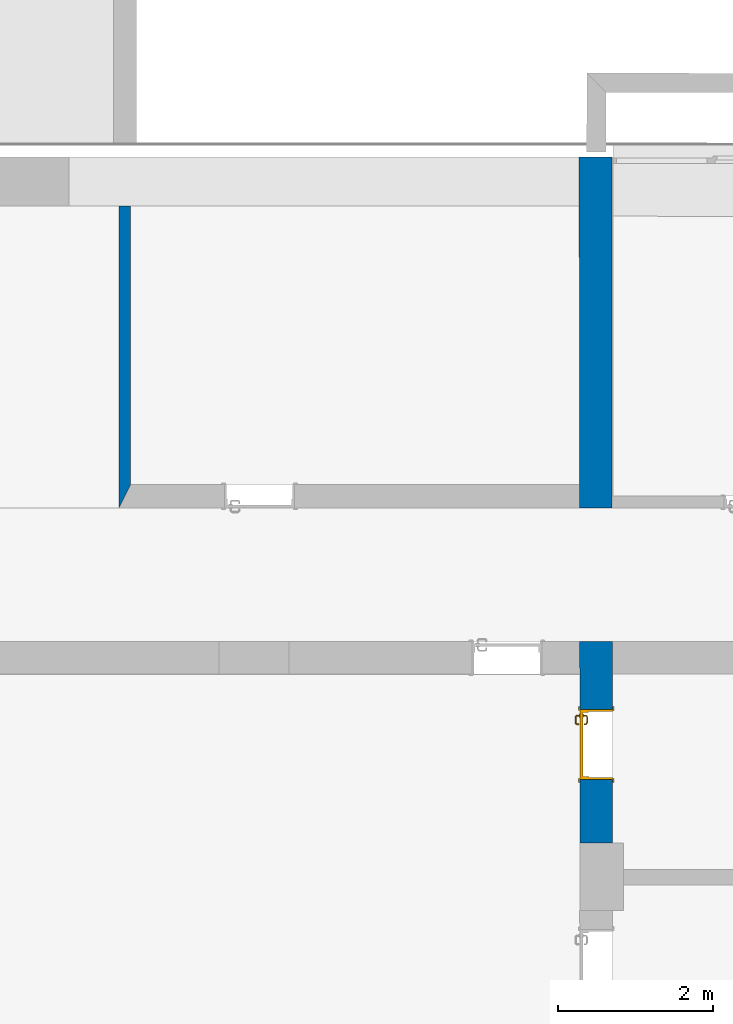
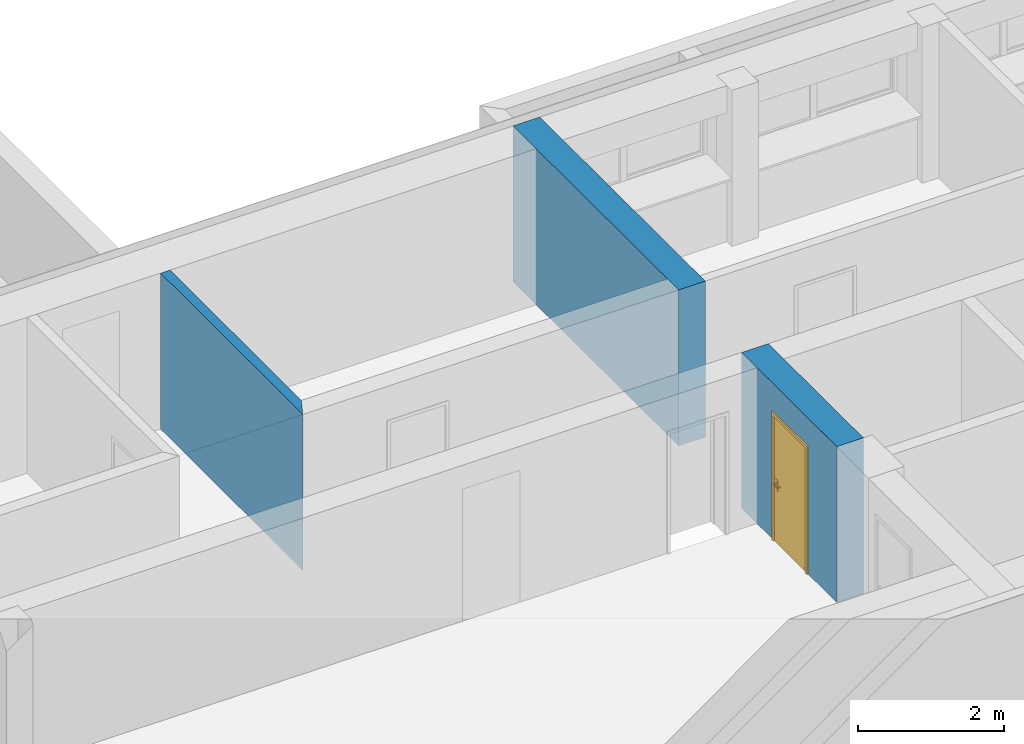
# One storey, part 17 of 127: 2 walls, 1 door, 2 openings.
"""IFC2X3 building model written with IfcOpenShell, lengths in millimetres."""

from ifc_helpers import new_model, entity, si_unit, converted_unit, derived_unit, money_unit, direction, frame, origin_with_axes, origin_2d_with_axis, place, context, subcontext, project, spatial, polyline, rectangle, outline, extrude, open_shell, faceted_brep, surface_model, source, transform, mapped, material, layer, layer_set, layer_usage, type_object, element, fill, save


model = new_model("IFC2X3")

# Units and contexts
model_context = context("Model", 3, precision=1e-05, world=origin_with_axes(), true_north=direction((0.0, 1.0)))
body_context = subcontext(model_context, "Body", "Model", "MODEL_VIEW")
ifc_project = project(units=[si_unit("LENGTHUNIT", "METRE", prefix="MILLI"), si_unit("AREAUNIT", "SQUARE_METRE"), si_unit("VOLUMEUNIT", "CUBIC_METRE"), converted_unit("PLANEANGLEUNIT", "DEGREE", entity("IfcPlaneAngleMeasure", 0.0174532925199), si_unit("PLANEANGLEUNIT", "RADIAN"), dimensions=[0, 0, 0, 0, 0, 0, 0]), si_unit("SOLIDANGLEUNIT", "STERADIAN"), money_unit("EUR"), converted_unit("TIMEUNIT", "Year", entity("IfcTimeMeasure", 31556926.0), si_unit("TIMEUNIT", "SECOND"), dimensions=[0, 0, 1, 0, 0, 0, 0]), si_unit("MASSUNIT", "GRAM", prefix="KILO"), si_unit("THERMODYNAMICTEMPERATUREUNIT", "DEGREE_CELSIUS"), si_unit("LUMINOUSINTENSITYUNIT", "LUMEN"), si_unit("ENERGYUNIT", "JOULE", prefix="MEGA"), derived_unit("THERMALCONDUCTANCEUNIT", [(si_unit("POWERUNIT", "WATT"), 1), (si_unit("LENGTHUNIT", "METRE"), -1), (si_unit("THERMODYNAMICTEMPERATUREUNIT", "KELVIN"), -1)]), derived_unit("SPECIFICHEATCAPACITYUNIT", [(si_unit("ENERGYUNIT", "JOULE"), 1), (si_unit("MASSUNIT", "GRAM", prefix="KILO"), -1), (si_unit("THERMODYNAMICTEMPERATUREUNIT", "KELVIN"), -1)]), derived_unit("MASSDENSITYUNIT", [(si_unit("MASSUNIT", "GRAM", prefix="KILO"), 1), (si_unit("VOLUMEUNIT", "CUBIC_METRE"), -1)])], contexts=[model_context])

# Site, building, storey
site_placement = place(None, origin_with_axes())
site = spatial("IfcSite", under=ifc_project, at=site_placement, Name="Site", CompositionType="ELEMENT")
building_placement = place(site_placement, origin_with_axes())
building = spatial("IfcBuilding", under=site, at=building_placement, Name="Building", CompositionType="ELEMENT")
storey_placement = place(building_placement, origin_with_axes())
storey = spatial("IfcBuildingStorey", under=building, at=storey_placement, Name="1 KORRUS", CompositionType="ELEMENT", Elevation=0.0)

# Wall
ifc_material = material(Name="Kivi -Ol.Olev Konstruktsioon")
ifc_layer_1 = layer(ifc_material, 150.0, ventilated="UNKNOWN")
ifc_layer_set_1 = layer_set([ifc_layer_1], Name="ol.olev ss 150")
ifc_layer_usage_1 = layer_usage(ifc_layer_set_1, "AXIS2", "POSITIVE", 0.0)
wall_type = type_object("IfcWallType", Name="SW - 036", PredefinedType="NOTDEFINED")
wall_1_placement = place(storey_placement, frame((81804.9330895, 47236.278488, 0.0), z_axis=(0.0, 0.0, 1.0), x_axis=(0.0, -1.0, 0.0)))
element("IfcWallStandardCase", 1, at=wall_1_placement, inside=storey, type_object=wall_type, material=ifc_layer_usage_1, Name="ol.olev ss 150", context=body_context, shape_type="SweptSolid", body=[
    extrude(outline(polyline([(630.000019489, 0.0), (4515.05204396, 0.0), (4215.05204396, 150.0), (630.03733236, 150.0), (630.000019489, 0.0)])), origin_with_axes(), (0.0, 0.0, 1.0), 2600.0),
])

# Wall, openings, door
ifc_layer_2 = layer(ifc_material, 420.0, ventilated="UNKNOWN")
ifc_layer_set_2 = layer_set([ifc_layer_2], Name="ol.olev ss 420")
ifc_layer_usage_2 = layer_usage(ifc_layer_set_2, "AXIS2", "POSITIVE", 0.0)
wall_2_placement = place(storey_placement, frame((87726.6748215, 47234.739273, 0.0), z_axis=(0.0, 0.0, 1.0), x_axis=(0.00121768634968, -0.99999925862, 0.0)))
wall_2 = element("IfcWallStandardCase", 2, at=wall_2_placement, inside=storey, type_object=wall_type, material=ifc_layer_usage_2, Name="ol.olev ss 420", context=body_context, shape_type="SweptSolid", body=[
    extrude(outline(polyline([(0.0, 0.0), (8824.48489359, 1.13686837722e-10), (8824.74060779, 420.0), (9.09494701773e-10, 420.0), (0.0, 0.0)])), origin_with_axes(), (0.0, 0.0, 1.0), 2600.0),
])
opening_1_placement = place(wall_2_placement, frame((7559.08498038, 0.0, 0.0), z_axis=(0.0, 0.0, 1.0), x_axis=(1.0, 0.0, 0.0)))
opening_1 = element("IfcOpeningElement", 3, at=opening_1_placement, cuts=wall_2, Name="Siseuks * Door 22", context=body_context, shape_type="SweptSolid", body=[
    extrude(rectangle(XDim=900.000000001, YDim=2100.0, at=origin_2d_with_axis()), frame((0.0, 420.0, 1050.0), z_axis=(0.0, 1.0, 0.0), x_axis=(1.0, 0.0, 0.0)), (0.0, 0.0, -1.0), 1260.0),
    extrude(rectangle(XDim=974.0, YDim=2137.0, at=origin_2d_with_axis()), frame((0.0, 420.0, 1068.5), z_axis=(0.0, 1.0, 0.0), x_axis=(1.0, 0.0, 0.0)), (0.0, 0.0, 1.0), 420.0),
    extrude(rectangle(XDim=974.000000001, YDim=2137.0, at=origin_2d_with_axis()), frame((0.0, 0.0, 1068.5), z_axis=(0.0, -1.0, 0.0), x_axis=(1.0, 0.0, 0.0)), (0.0, 0.0, 1.0), 420.0),
])
opening_2_placement = place(wall_2_placement, frame((5372.87402731, 0.0, 0.0), z_axis=(0.0, 0.0, 1.0), x_axis=(1.0, 0.0, 0.0)))
element("IfcOpeningElement", 4, at=opening_2_placement, cuts=wall_2, Name="Background;  Objekti nimi: Simple Door Opening", context=body_context, shape_type="SweptSolid", body=[
    extrude(rectangle(XDim=1718.64025636, YDim=2600.0, at=origin_2d_with_axis()), frame((0.0, 0.0, 1300.0), z_axis=(0.0, 1.0, 0.0), x_axis=(1.0, 0.0, 0.0)), (0.0, 0.0, -1.0), 420.0),
    extrude(rectangle(XDim=1718.64025636, YDim=2600.0, at=origin_2d_with_axis()), frame((0.0, 0.0, 1300.0), z_axis=(0.0, -1.0, 0.0), x_axis=(1.0, 0.0, 0.0)), (0.0, 0.0, -1.0), 420.0),
])
door_style = type_object("IfcDoorStyle", Name="SU-B131A   900×2\xa0100", ConstructionType="NOTDEFINED", OperationType="SINGLE_SWING_LEFT", ParameterTakesPrecedence=False, Sizeable=False)
shared_shape = source(origin_with_axes(), body_context, "Body", "SurfaceModel", [
    faceted_brep([(450.0, -115.0, 0.0), (450.0, -420.0, 0.0), (425.0, -420.0, 0.0), (425.0, -115.0, 0.0), (450.0, -115.0, 2100.0), (450.0, -420.0, 2100.0), (425.0, -420.0, 2075.0), (425.0, -115.0, 2075.0)], [[[0, 1, 2, 3]], [[4, 5, 1, 0]], [[1, 5, 6, 2]], [[3, 2, 6, 7]], [[0, 3, 7, 4]], [[7, 6, 5, 4]]]),
    faceted_brep([(-450.0, -115.0, 2100.0), (-450.0, -420.0, 2100.0), (-425.0, -420.0, 2075.0), (-425.0, -115.0, 2075.0), (-450.0, -115.0, 0.0), (-450.0, -420.0, 0.0), (-425.0, -420.0, 0.0), (-425.0, -115.0, 0.0)], [[[0, 1, 2, 3]], [[4, 5, 1, 0]], [[1, 5, 6, 2]], [[3, 2, 6, 7]], [[0, 3, 7, 4]], [[7, 6, 5, 4]]]),
    faceted_brep([(425.0, -115.0, 2075.0), (425.0, -420.0, 2075.0), (-425.0, -420.0, 2075.0), (-425.0, -115.0, 2075.0), (450.0, -115.0, 2100.0), (450.0, -420.0, 2100.0), (-450.0, -420.0, 2100.0), (-450.0, -115.0, 2100.0)], [[[0, 1, 2, 3]], [[4, 5, 1, 0]], [[1, 5, 6, 2]], [[3, 2, 6, 7]], [[0, 3, 7, 4]], [[7, 6, 5, 4]]]),
    faceted_brep([(487.0, -439.0, 0.0), (437.0, -439.0, 0.0), (437.0, -420.0, 0.0), (487.0, -420.0, 0.0), (487.0, -439.0, 2137.0), (437.0, -439.0, 2087.0), (437.0, -420.0, 2087.0), (487.0, -420.0, 2137.0)], [[[0, 1, 2, 3]], [[0, 4, 5, 1]], [[1, 5, 6, 2]], [[3, 2, 6, 7]], [[4, 0, 3, 7]], [[5, 4, 7, 6]]]),
    faceted_brep([(-487.0, -439.0, 2137.0), (-437.0, -439.0, 2087.0), (-437.0, -420.0, 2087.0), (-487.0, -420.0, 2137.0), (-487.0, -439.0, 0.0), (-437.0, -439.0, 0.0), (-437.0, -420.0, 0.0), (-487.0, -420.0, 0.0)], [[[0, 1, 2, 3]], [[0, 4, 5, 1]], [[1, 5, 6, 2]], [[3, 2, 6, 7]], [[4, 0, 3, 7]], [[5, 4, 7, 6]]]),
    faceted_brep([(487.0, -439.0, 2137.0), (437.0, -439.0, 2087.0), (437.0, -420.0, 2087.0), (487.0, -420.0, 2137.0), (-487.0, -439.0, 2137.0), (-437.0, -439.0, 2087.0), (-437.0, -420.0, 2087.0), (-487.0, -420.0, 2137.0)], [[[0, 1, 2, 3]], [[0, 4, 5, 1]], [[1, 5, 6, 2]], [[3, 2, 6, 7]], [[4, 0, 3, 7]], [[5, 4, 7, 6]]]),
    faceted_brep([(487.0, 19.0, 0.0), (487.0, 0.0, 0.0), (437.0, 0.0, 0.0), (437.0, 19.0, 0.0), (487.0, 19.0, 2137.0), (487.0, 0.0, 2137.0), (437.0, 0.0, 2087.0), (437.0, 19.0, 2087.0)], [[[0, 1, 2, 3]], [[4, 5, 1, 0]], [[1, 5, 6, 2]], [[3, 2, 6, 7]], [[0, 3, 7, 4]], [[7, 6, 5, 4]]]),
    faceted_brep([(-487.0, 19.0, 2137.0), (-487.0, 0.0, 2137.0), (-437.0, 0.0, 2087.0), (-437.0, 19.0, 2087.0), (-487.0, 19.0, 0.0), (-487.0, 0.0, 0.0), (-437.0, 0.0, 0.0), (-437.0, 19.0, 0.0)], [[[0, 1, 2, 3]], [[4, 5, 1, 0]], [[1, 5, 6, 2]], [[3, 2, 6, 7]], [[0, 3, 7, 4]], [[7, 6, 5, 4]]]),
    faceted_brep([(487.0, 19.0, 2137.0), (487.0, 0.0, 2137.0), (437.0, 0.0, 2087.0), (437.0, 19.0, 2087.0), (-487.0, 19.0, 2137.0), (-487.0, 0.0, 2137.0), (-437.0, 0.0, 2087.0), (-437.0, 19.0, 2087.0)], [[[0, 1, 2, 3]], [[4, 5, 1, 0]], [[1, 5, 6, 2]], [[3, 2, 6, 7]], [[0, 3, 7, 4]], [[7, 6, 5, 4]]]),
    faceted_brep([(410.0, -40.0, 0.0), (410.0, -115.0, 0.0), (410.0, -115.0, 2060.0), (410.0, -40.0, 2060.0), (422.0, -40.0, 0.0), (422.0, 0.0, 0.0), (450.0, 0.0, 0.0), (450.0, -115.0, 0.0), (450.0, -115.0, 2060.0), (422.0, -40.0, 2060.0), (450.0, 0.0, 2060.0), (422.0, 0.0, 2060.0)], [[[0, 1, 2, 3]], [[4, 5, 6, 7, 1, 0]], [[1, 7, 8, 2]], [[9, 3, 2, 8, 10, 11]], [[9, 4, 0, 3]], [[11, 5, 4, 9]], [[11, 10, 6, 5]], [[6, 10, 8, 7]]]),
    faceted_brep([(-422.0, -40.0, 2060.0), (-422.0, 0.0, 2060.0), (-450.0, 0.0, 2060.0), (-450.0, -115.0, 2060.0), (-410.0, -115.0, 2060.0), (-410.0, -40.0, 2060.0), (-422.0, -40.0, 0.0), (-422.0, 0.0, 0.0), (-450.0, 0.0, 0.0), (-450.0, -115.0, 0.0), (-410.0, -115.0, 0.0), (-410.0, -40.0, 0.0)], [[[0, 1, 2, 3, 4, 5]], [[0, 6, 7, 1]], [[7, 8, 2, 1]], [[2, 8, 9, 3]], [[3, 9, 10, 4]], [[5, 4, 10, 11]], [[5, 11, 6, 0]], [[6, 11, 10, 9, 8, 7]]]),
    faceted_brep([(422.0, 0.0, 2072.0), (-422.0, 0.0, 2072.0), (-422.0, 0.0, 2060.0), (-450.0, 0.0, 2060.0), (-450.0, 0.0, 2100.0), (450.0, 0.0, 2100.0), (450.0, 0.0, 2060.0), (422.0, 0.0, 2060.0), (422.0, -40.0, 2072.0), (-422.0, -40.0, 2072.0), (-422.0, -40.0, 2060.0), (-410.0, -40.0, 2060.0), (-410.0, -115.0, 2060.0), (-450.0, -115.0, 2060.0), (-450.0, -115.0, 2100.0), (450.0, -115.0, 2100.0), (450.0, -115.0, 2060.0), (422.0, -40.0, 2060.0), (410.0, -115.0, 2060.0), (410.0, -40.0, 2060.0)], [[[0, 1, 2, 3, 4, 5, 6, 7]], [[0, 8, 9, 1]], [[1, 9, 10, 2]], [[10, 11, 12, 13, 3, 2]], [[4, 3, 13, 14]], [[5, 4, 14, 15]], [[6, 5, 15, 16]], [[17, 7, 6, 16, 18, 19]], [[7, 17, 8, 0]], [[10, 9, 8, 17, 19, 11]], [[19, 18, 12, 11]], [[12, 18, 16, 15, 14, 13]]]),
    faceted_brep([(400.5, -40.0, 1060.0), (343.5, -40.0, 1060.0), (343.5, -43.0, 1060.0), (400.5, -43.0, 1060.0), (400.5, -40.0, 870.0), (343.5, -40.0, 870.0), (343.5, -43.0, 870.0), (400.5, -43.0, 870.0)], [[[0, 1, 2, 3]], [[0, 4, 5, 1]], [[1, 5, 6, 2]], [[3, 2, 6, 7]], [[4, 0, 3, 7]], [[5, 4, 7, 6]]]),
    surface_model("IfcShellBasedSurfaceModel", [(362.0, -53.0, 1000.0), (364.928932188, -53.0, 992.928932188), (364.928932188, -72.303560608, 992.928932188), (362.0, -72.0150859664, 1000.0), (372.0, -53.0, 990.0), (372.0, -73.0, 990.0), (363.816790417, -77.8946748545, 992.928932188), (361.057796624, -76.751862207, 1000.0), (364.928932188, -53.0, 1007.07106781), (364.928932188, -72.303560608, 1007.07106781), (379.071067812, -53.0, 992.928932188), (379.071067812, -73.696439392, 992.928932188), (370.47759065, -80.6536686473, 990.0), (361.044179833, -82.0441798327, 992.928932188), (358.932537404, -79.9325374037, 1000.0), (363.816790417, -77.8946748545, 1007.07106781), (372.0, -53.0, 1010.0), (372.0, -73.0, 1010.0), (382.0, -53.0, 1000.0), (382.0, -73.9849140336, 1000.0), (377.138390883, -83.4126624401, 992.928932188), (366.142135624, -87.1421356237, 990.0), (356.894674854, -84.8167904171, 992.928932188), (355.751862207, -82.0577966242, 1000.0), (361.044179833, -82.0441798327, 1007.07106781), (370.47759065, -80.6536686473, 1010.0), (379.071067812, -53.0, 1007.07106781), (379.071067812, -73.696439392, 1007.07106781), (379.897384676, -84.5554750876, 1000.0), (371.240091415, -92.2400914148, 992.928932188), (359.653668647, -91.4775906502, 990.0), (351.303560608, -85.9289321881, 992.928932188), (351.015085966, -83.0, 1000.0), (356.894674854, -84.8167904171, 1007.07106781), (366.142135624, -87.1421356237, 1010.0), (377.138390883, -83.4126624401, 1007.07106781), (373.351733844, -94.3517338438, 1000.0), (362.41266244, -98.1383908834, 992.928932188), (352.0, -93.0, 990.0), (282.696439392, -85.9289321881, 992.928932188), (282.984914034, -83.0, 1000.0), (351.303560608, -85.9289321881, 1007.07106781), (359.653668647, -91.4775906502, 1010.0), (371.240091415, -92.2400914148, 1007.07106781), (363.555475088, -100.897384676, 1000.0), (352.696439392, -100.071067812, 992.928932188), (282.0, -93.0, 990.0), (277.105325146, -84.8167904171, 992.928932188), (278.248137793, -82.0577966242, 1000.0), (282.696439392, -85.9289321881, 1007.07106781), (352.0, -93.0, 1010.0), (362.41266244, -98.1383908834, 1007.07106781), (352.984914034, -103.0, 1000.0), (281.303560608, -100.071067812, 992.928932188), (274.346331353, -91.4775906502, 990.0), (272.955820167, -82.0441798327, 992.928932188), (275.067462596, -79.9325374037, 1000.0), (277.105325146, -84.8167904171, 1007.07106781), (282.0, -93.0, 1010.0), (352.696439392, -100.071067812, 1007.07106781), (281.015085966, -103.0, 1000.0), (271.58733756, -98.1383908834, 992.928932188), (267.857864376, -87.1421356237, 990.0), (270.183209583, -77.8946748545, 992.928932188), (272.942203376, -76.751862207, 1000.0), (272.955820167, -82.0441798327, 1007.07106781), (274.346331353, -91.4775906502, 1010.0), (281.303560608, -100.071067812, 1007.07106781), (270.444524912, -100.897384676, 1000.0), (262.759908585, -92.2400914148, 992.928932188), (263.52240935, -80.6536686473, 990.0), (269.071067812, -72.303560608, 992.928932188), (272.0, -72.0150859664, 1000.0), (270.183209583, -77.8946748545, 1007.07106781), (267.857864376, -87.1421356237, 1010.0), (271.58733756, -98.1383908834, 1007.07106781), (260.648266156, -94.3517338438, 1000.0), (256.861609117, -83.4126624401, 992.928932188), (262.0, -73.0, 990.0), (269.071067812, -53.0, 992.928932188), (272.0, -53.0, 1000.0), (269.071067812, -72.303560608, 1007.07106781), (263.52240935, -80.6536686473, 1010.0), (262.759908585, -92.2400914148, 1007.07106781), (254.102615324, -84.5554750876, 1000.0), (254.928932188, -73.696439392, 992.928932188), (262.0, -53.0, 990.0), (254.928932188, -53.0, 992.928932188), (252.0, -53.0, 1000.0), (254.928932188, -53.0, 1007.07106781), (262.0, -53.0, 1010.0), (269.071067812, -53.0, 1007.07106781), (262.0, -73.0, 1010.0), (256.861609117, -83.4126624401, 1007.07106781), (252.0, -73.9849140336, 1000.0), (254.928932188, -73.696439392, 1007.07106781)], [open_shell([[[0, 1, 2, 3]], [[1, 4, 5, 2]], [[3, 2, 6, 7]], [[8, 0, 3, 9]], [[4, 10, 11, 5]], [[2, 5, 12, 6]], [[7, 6, 13, 14]], [[9, 3, 7, 15]], [[16, 8, 9, 17]], [[10, 18, 19, 11]], [[5, 11, 20, 12]], [[6, 12, 21, 13]], [[14, 13, 22, 23]], [[15, 7, 14, 24]], [[17, 9, 15, 25]], [[26, 16, 17, 27]], [[18, 26, 27, 19]], [[11, 19, 28, 20]], [[12, 20, 29, 21]], [[13, 21, 30, 22]], [[23, 22, 31, 32]], [[24, 14, 23, 33]], [[25, 15, 24, 34]], [[27, 17, 25, 35]], [[19, 27, 35, 28]], [[20, 28, 36, 29]], [[21, 29, 37, 30]], [[22, 30, 38, 31]], [[32, 31, 39, 40]], [[33, 23, 32, 41]], [[34, 24, 33, 42]], [[35, 25, 34, 43]], [[28, 35, 43, 36]], [[29, 36, 44, 37]], [[30, 37, 45, 38]], [[31, 38, 46, 39]], [[40, 39, 47, 48]], [[41, 32, 40, 49]], [[42, 33, 41, 50]], [[43, 34, 42, 51]], [[36, 43, 51, 44]], [[37, 44, 52, 45]], [[38, 45, 53, 46]], [[39, 46, 54, 47]], [[48, 47, 55, 56]], [[49, 40, 48, 57]], [[50, 41, 49, 58]], [[51, 42, 50, 59]], [[44, 51, 59, 52]], [[45, 52, 60, 53]], [[46, 53, 61, 54]], [[47, 54, 62, 55]], [[56, 55, 63, 64]], [[57, 48, 56, 65]], [[58, 49, 57, 66]], [[59, 50, 58, 67]], [[52, 59, 67, 60]], [[53, 60, 68, 61]], [[54, 61, 69, 62]], [[55, 62, 70, 63]], [[64, 63, 71, 72]], [[65, 56, 64, 73]], [[66, 57, 65, 74]], [[67, 58, 66, 75]], [[60, 67, 75, 68]], [[61, 68, 76, 69]], [[62, 69, 77, 70]], [[63, 70, 78, 71]], [[72, 71, 79, 80]], [[73, 64, 72, 81]], [[74, 65, 73, 82]], [[75, 66, 74, 83]], [[68, 75, 83, 76]], [[69, 76, 84, 77]], [[70, 77, 85, 78]], [[71, 78, 86, 79]], [[80, 79, 86, 87, 88, 89, 90, 91]], [[81, 72, 80, 91]], [[82, 73, 81, 92]], [[83, 74, 82, 93]], [[76, 83, 93, 84]], [[77, 84, 94, 85]], [[78, 85, 87, 86]], [[85, 94, 88, 87]], [[94, 95, 89, 88]], [[95, 92, 90, 89]], [[92, 81, 91, 90]], [[93, 82, 92, 95]], [[84, 93, 95, 94]]])]),
    faceted_brep([(361.607695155, -53.0, 994.0), (360.0, -53.0, 1000.0), (359.0, -43.0, 1000.0), (360.741669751, -43.0, 993.5), (366.0, -53.0, 989.607695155), (372.0, -53.0, 988.0), (378.0, -53.0, 989.607695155), (382.392304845, -53.0, 994.0), (384.0, -53.0, 1000.0), (382.392304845, -53.0, 1006.0), (378.0, -53.0, 1010.39230485), (372.0, -53.0, 1012.0), (366.0, -53.0, 1010.39230485), (361.607695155, -53.0, 1006.0), (360.741669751, -43.0, 1006.5), (365.5, -43.0, 1011.25833025), (372.0, -43.0, 1013.0), (378.5, -43.0, 1011.25833025), (383.258330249, -43.0, 1006.5), (385.0, -43.0, 1000.0), (383.258330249, -43.0, 993.5), (378.5, -43.0, 988.741669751), (372.0, -43.0, 987.0), (365.5, -43.0, 988.741669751)], [[[0, 1, 2, 3]], [[1, 0, 4, 5, 6, 7, 8, 9, 10, 11, 12, 13]], [[1, 13, 14, 2]], [[2, 14, 15, 16, 17, 18, 19, 20, 21, 22, 23, 3]], [[4, 0, 3, 23]], [[5, 4, 23, 22]], [[6, 5, 22, 21]], [[7, 6, 21, 20]], [[8, 7, 20, 19]], [[9, 8, 19, 18]], [[10, 9, 18, 17]], [[11, 10, 17, 16]], [[12, 11, 16, 15]], [[13, 12, 15, 14]]]),
    faceted_brep([(354.679491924, -47.0, 895.0), (352.0, -47.0, 905.0), (350.0, -43.0, 905.0), (352.947441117, -43.0, 894.0), (362.0, -47.0, 887.679491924), (372.0, -47.0, 885.0), (382.0, -47.0, 887.679491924), (389.320508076, -47.0, 895.0), (392.0, -47.0, 905.0), (389.320508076, -47.0, 915.0), (382.0, -47.0, 922.320508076), (372.0, -47.0, 925.0), (362.0, -47.0, 922.320508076), (354.679491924, -47.0, 915.0), (352.947441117, -43.0, 916.0), (361.0, -43.0, 924.052558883), (372.0, -43.0, 927.0), (383.0, -43.0, 924.052558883), (391.052558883, -43.0, 916.0), (394.0, -43.0, 905.0), (391.052558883, -43.0, 894.0), (383.0, -43.0, 885.947441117), (372.0, -43.0, 883.0), (361.0, -43.0, 885.947441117)], [[[0, 1, 2, 3]], [[1, 0, 4, 5, 6, 7, 8, 9, 10, 11, 12, 13]], [[1, 13, 14, 2]], [[2, 14, 15, 16, 17, 18, 19, 20, 21, 22, 23, 3]], [[4, 0, 3, 23]], [[5, 4, 23, 22]], [[6, 5, 22, 21]], [[7, 6, 21, 20]], [[8, 7, 20, 19]], [[9, 8, 19, 18]], [[10, 9, 18, 17]], [[11, 10, 17, 16]], [[12, 11, 16, 15]], [[13, 12, 15, 14]]]),
    faceted_brep([(367.050252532, -49.0, 909.050252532), (365.0, -49.0, 914.0), (364.0, -47.0, 914.0), (366.343145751, -47.0, 908.343145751), (372.0, -49.0, 907.0), (376.949747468, -49.0, 909.050252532), (379.0, -49.0, 914.0), (376.949747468, -49.0, 918.949747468), (372.0, -49.0, 921.0), (367.050252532, -49.0, 918.949747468), (366.343145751, -47.0, 919.656854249), (372.0, -47.0, 922.0), (377.656854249, -47.0, 919.656854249), (380.0, -47.0, 914.0), (377.656854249, -47.0, 908.343145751), (372.0, -47.0, 906.0)], [[[0, 1, 2, 3]], [[1, 0, 4, 5, 6, 7, 8, 9]], [[1, 9, 10, 2]], [[2, 10, 11, 12, 13, 14, 15, 3]], [[4, 0, 3, 15]], [[5, 4, 15, 14]], [[6, 5, 14, 13]], [[7, 6, 13, 12]], [[8, 7, 12, 11]], [[9, 8, 11, 10]]]),
    faceted_brep([(400.5, 0.0, 1060.0), (400.5, 3.0, 1060.0), (343.5, 3.0, 1060.0), (343.5, 0.0, 1060.0), (400.5, 0.0, 870.0), (400.5, 3.0, 870.0), (343.5, 3.0, 870.0), (343.5, 0.0, 870.0)], [[[0, 1, 2, 3]], [[4, 5, 1, 0]], [[1, 5, 6, 2]], [[3, 2, 6, 7]], [[0, 3, 7, 4]], [[7, 6, 5, 4]]]),
    surface_model("IfcShellBasedSurfaceModel", [(362.0, 13.0, 1000.0), (362.0, 32.0150859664, 1000.0), (364.928932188, 32.303560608, 992.928932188), (364.928932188, 13.0, 992.928932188), (364.928932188, 13.0, 1007.07106781), (364.928932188, 32.303560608, 1007.07106781), (361.057796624, 36.751862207, 1000.0), (363.816790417, 37.8946748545, 992.928932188), (372.0, 33.0, 990.0), (372.0, 13.0, 990.0), (372.0, 13.0, 1010.0), (372.0, 33.0, 1010.0), (363.816790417, 37.8946748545, 1007.07106781), (358.932537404, 39.9325374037, 1000.0), (361.044179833, 42.0441798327, 992.928932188), (370.47759065, 40.6536686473, 990.0), (379.071067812, 33.696439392, 992.928932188), (379.071067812, 13.0, 992.928932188), (379.071067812, 13.0, 1007.07106781), (379.071067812, 33.696439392, 1007.07106781), (370.47759065, 40.6536686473, 1010.0), (361.044179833, 42.0441798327, 1007.07106781), (355.751862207, 42.0577966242, 1000.0), (356.894674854, 44.8167904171, 992.928932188), (366.142135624, 47.1421356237, 990.0), (377.138390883, 43.4126624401, 992.928932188), (382.0, 33.9849140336, 1000.0), (382.0, 13.0, 1000.0), (377.138390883, 43.4126624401, 1007.07106781), (366.142135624, 47.1421356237, 1010.0), (356.894674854, 44.8167904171, 1007.07106781), (351.015085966, 43.0, 1000.0), (351.303560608, 45.9289321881, 992.928932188), (359.653668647, 51.4775906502, 990.0), (371.240091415, 52.2400914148, 992.928932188), (379.897384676, 44.5554750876, 1000.0), (371.240091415, 52.2400914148, 1007.07106781), (359.653668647, 51.4775906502, 1010.0), (351.303560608, 45.9289321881, 1007.07106781), (282.984914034, 43.0, 1000.0), (282.696439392, 45.9289321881, 992.928932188), (352.0, 53.0, 990.0), (362.41266244, 58.1383908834, 992.928932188), (373.351733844, 54.3517338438, 1000.0), (362.41266244, 58.1383908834, 1007.07106781), (352.0, 53.0, 1010.0), (282.696439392, 45.9289321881, 1007.07106781), (278.248137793, 42.0577966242, 1000.0), (277.105325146, 44.8167904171, 992.928932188), (282.0, 53.0, 990.0), (352.696439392, 60.0710678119, 992.928932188), (363.555475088, 60.8973846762, 1000.0), (352.696439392, 60.0710678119, 1007.07106781), (282.0, 53.0, 1010.0), (277.105325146, 44.8167904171, 1007.07106781), (275.067462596, 39.9325374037, 1000.0), (272.955820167, 42.0441798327, 992.928932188), (274.346331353, 51.4775906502, 990.0), (281.303560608, 60.0710678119, 992.928932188), (352.984914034, 63.0, 1000.0), (281.303560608, 60.0710678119, 1007.07106781), (274.346331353, 51.4775906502, 1010.0), (272.955820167, 42.0441798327, 1007.07106781), (272.942203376, 36.751862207, 1000.0), (270.183209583, 37.8946748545, 992.928932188), (267.857864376, 47.1421356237, 990.0), (271.58733756, 58.1383908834, 992.928932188), (281.015085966, 63.0, 1000.0), (271.58733756, 58.1383908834, 1007.07106781), (267.857864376, 47.1421356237, 1010.0), (270.183209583, 37.8946748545, 1007.07106781), (272.0, 32.0150859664, 1000.0), (269.071067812, 32.303560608, 992.928932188), (263.52240935, 40.6536686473, 990.0), (262.759908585, 52.2400914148, 992.928932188), (270.444524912, 60.8973846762, 1000.0), (262.759908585, 52.2400914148, 1007.07106781), (263.52240935, 40.6536686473, 1010.0), (269.071067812, 32.303560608, 1007.07106781), (272.0, 13.0, 1000.0), (269.071067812, 13.0, 992.928932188), (262.0, 33.0, 990.0), (256.861609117, 43.4126624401, 992.928932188), (260.648266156, 54.3517338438, 1000.0), (256.861609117, 43.4126624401, 1007.07106781), (262.0, 33.0, 1010.0), (269.071067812, 13.0, 1007.07106781), (262.0, 13.0, 1010.0), (254.928932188, 13.0, 1007.07106781), (252.0, 13.0, 1000.0), (254.928932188, 13.0, 992.928932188), (262.0, 13.0, 990.0), (254.928932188, 33.696439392, 992.928932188), (254.102615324, 44.5554750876, 1000.0), (254.928932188, 33.696439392, 1007.07106781), (252.0, 33.9849140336, 1000.0)], [open_shell([[[0, 1, 2, 3]], [[4, 5, 1, 0]], [[1, 6, 7, 2]], [[3, 2, 8, 9]], [[10, 11, 5, 4]], [[5, 12, 6, 1]], [[6, 13, 14, 7]], [[2, 7, 15, 8]], [[9, 8, 16, 17]], [[18, 19, 11, 10]], [[11, 20, 12, 5]], [[12, 21, 13, 6]], [[13, 22, 23, 14]], [[7, 14, 24, 15]], [[8, 15, 25, 16]], [[17, 16, 26, 27]], [[27, 26, 19, 18]], [[19, 28, 20, 11]], [[20, 29, 21, 12]], [[21, 30, 22, 13]], [[22, 31, 32, 23]], [[14, 23, 33, 24]], [[15, 24, 34, 25]], [[16, 25, 35, 26]], [[26, 35, 28, 19]], [[28, 36, 29, 20]], [[29, 37, 30, 21]], [[30, 38, 31, 22]], [[31, 39, 40, 32]], [[23, 32, 41, 33]], [[24, 33, 42, 34]], [[25, 34, 43, 35]], [[35, 43, 36, 28]], [[36, 44, 37, 29]], [[37, 45, 38, 30]], [[38, 46, 39, 31]], [[39, 47, 48, 40]], [[32, 40, 49, 41]], [[33, 41, 50, 42]], [[34, 42, 51, 43]], [[43, 51, 44, 36]], [[44, 52, 45, 37]], [[45, 53, 46, 38]], [[46, 54, 47, 39]], [[47, 55, 56, 48]], [[40, 48, 57, 49]], [[41, 49, 58, 50]], [[42, 50, 59, 51]], [[51, 59, 52, 44]], [[52, 60, 53, 45]], [[53, 61, 54, 46]], [[54, 62, 55, 47]], [[55, 63, 64, 56]], [[48, 56, 65, 57]], [[49, 57, 66, 58]], [[50, 58, 67, 59]], [[59, 67, 60, 52]], [[60, 68, 61, 53]], [[61, 69, 62, 54]], [[62, 70, 63, 55]], [[63, 71, 72, 64]], [[56, 64, 73, 65]], [[57, 65, 74, 66]], [[58, 66, 75, 67]], [[67, 75, 68, 60]], [[68, 76, 69, 61]], [[69, 77, 70, 62]], [[70, 78, 71, 63]], [[71, 79, 80, 72]], [[64, 72, 81, 73]], [[65, 73, 82, 74]], [[66, 74, 83, 75]], [[75, 83, 76, 68]], [[76, 84, 77, 69]], [[77, 85, 78, 70]], [[78, 86, 79, 71]], [[79, 86, 87, 88, 89, 90, 91, 80]], [[72, 80, 91, 81]], [[73, 81, 92, 82]], [[74, 82, 93, 83]], [[83, 93, 84, 76]], [[84, 94, 85, 77]], [[85, 87, 86, 78]], [[94, 88, 87, 85]], [[95, 89, 88, 94]], [[92, 90, 89, 95]], [[81, 91, 90, 92]], [[82, 92, 95, 93]], [[93, 95, 94, 84]]])]),
    faceted_brep([(361.607695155, 13.0, 994.0), (360.741669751, 3.0, 993.5), (359.0, 3.0, 1000.0), (360.0, 13.0, 1000.0), (366.0, 13.0, 989.607695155), (365.5, 3.0, 988.741669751), (372.0, 3.0, 987.0), (378.5, 3.0, 988.741669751), (383.258330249, 3.0, 993.5), (385.0, 3.0, 1000.0), (383.258330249, 3.0, 1006.5), (378.5, 3.0, 1011.25833025), (372.0, 3.0, 1013.0), (365.5, 3.0, 1011.25833025), (360.741669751, 3.0, 1006.5), (361.607695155, 13.0, 1006.0), (366.0, 13.0, 1010.39230485), (372.0, 13.0, 1012.0), (378.0, 13.0, 1010.39230485), (382.392304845, 13.0, 1006.0), (384.0, 13.0, 1000.0), (382.392304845, 13.0, 994.0), (378.0, 13.0, 989.607695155), (372.0, 13.0, 988.0)], [[[0, 1, 2, 3]], [[4, 5, 1, 0]], [[2, 1, 5, 6, 7, 8, 9, 10, 11, 12, 13, 14]], [[3, 2, 14, 15]], [[3, 15, 16, 17, 18, 19, 20, 21, 22, 23, 4, 0]], [[23, 6, 5, 4]], [[22, 7, 6, 23]], [[21, 8, 7, 22]], [[20, 9, 8, 21]], [[19, 10, 9, 20]], [[18, 11, 10, 19]], [[17, 12, 11, 18]], [[16, 13, 12, 17]], [[15, 14, 13, 16]]]),
    faceted_brep([(354.679491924, 7.0, 895.0), (352.947441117, 3.0, 894.0), (350.0, 3.0, 905.0), (352.0, 7.0, 905.0), (362.0, 7.0, 887.679491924), (361.0, 3.0, 885.947441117), (372.0, 3.0, 883.0), (383.0, 3.0, 885.947441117), (391.052558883, 3.0, 894.0), (394.0, 3.0, 905.0), (391.052558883, 3.0, 916.0), (383.0, 3.0, 924.052558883), (372.0, 3.0, 927.0), (361.0, 3.0, 924.052558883), (352.947441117, 3.0, 916.0), (354.679491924, 7.0, 915.0), (362.0, 7.0, 922.320508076), (372.0, 7.0, 925.0), (382.0, 7.0, 922.320508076), (389.320508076, 7.0, 915.0), (392.0, 7.0, 905.0), (389.320508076, 7.0, 895.0), (382.0, 7.0, 887.679491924), (372.0, 7.0, 885.0)], [[[0, 1, 2, 3]], [[4, 5, 1, 0]], [[2, 1, 5, 6, 7, 8, 9, 10, 11, 12, 13, 14]], [[3, 2, 14, 15]], [[3, 15, 16, 17, 18, 19, 20, 21, 22, 23, 4, 0]], [[23, 6, 5, 4]], [[22, 7, 6, 23]], [[21, 8, 7, 22]], [[20, 9, 8, 21]], [[19, 10, 9, 20]], [[18, 11, 10, 19]], [[17, 12, 11, 18]], [[16, 13, 12, 17]], [[15, 14, 13, 16]]]),
    faceted_brep([(367.050252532, 9.0, 909.050252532), (366.343145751, 7.0, 908.343145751), (364.0, 7.0, 914.0), (365.0, 9.0, 914.0), (372.0, 9.0, 907.0), (372.0, 7.0, 906.0), (377.656854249, 7.0, 908.343145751), (380.0, 7.0, 914.0), (377.656854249, 7.0, 919.656854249), (372.0, 7.0, 922.0), (366.343145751, 7.0, 919.656854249), (367.050252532, 9.0, 918.949747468), (372.0, 9.0, 921.0), (376.949747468, 9.0, 918.949747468), (379.0, 9.0, 914.0), (376.949747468, 9.0, 909.050252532)], [[[0, 1, 2, 3]], [[4, 5, 1, 0]], [[2, 1, 5, 6, 7, 8, 9, 10]], [[3, 2, 10, 11]], [[3, 11, 12, 13, 14, 15, 4, 0]], [[15, 6, 5, 4]], [[14, 7, 6, 15]], [[13, 8, 7, 14]], [[12, 9, 8, 13]], [[11, 10, 9, 12]]]),
    faceted_brep([(-422.0, 0.0, 0.0), (422.0, 0.0, 0.0), (422.0, -40.0, 0.0), (-422.0, -40.0, 0.0), (-422.0, 0.0, 2072.0), (422.0, 0.0, 2072.0), (422.0, -40.0, 2072.0), (-422.0, -40.0, 2072.0)], [[[0, 1, 2, 3]], [[0, 4, 5, 1]], [[1, 5, 6, 2]], [[3, 2, 6, 7]], [[4, 0, 3, 7]], [[5, 4, 7, 6]]]),
])
door_placement = place(opening_1_placement, frame((449.999999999, 1.13686837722e-10, 0.0), z_axis=(0.0, 0.0, 1.0), x_axis=(-1.0, 0.0, 0.0)))
door = element("IfcDoor", 5, at=door_placement, inside=storey, type_object=door_style, Name="Siseuks * Door 22", OverallHeight=2100.0, OverallWidth=900.0, context=body_context, shape_type="MappedRepresentation", body=[
    mapped(shared_shape, transform((450.0, 1.13686837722e-10, 0.0))),
])
fill(opening_1, door)

save(model, "model.ifc")
